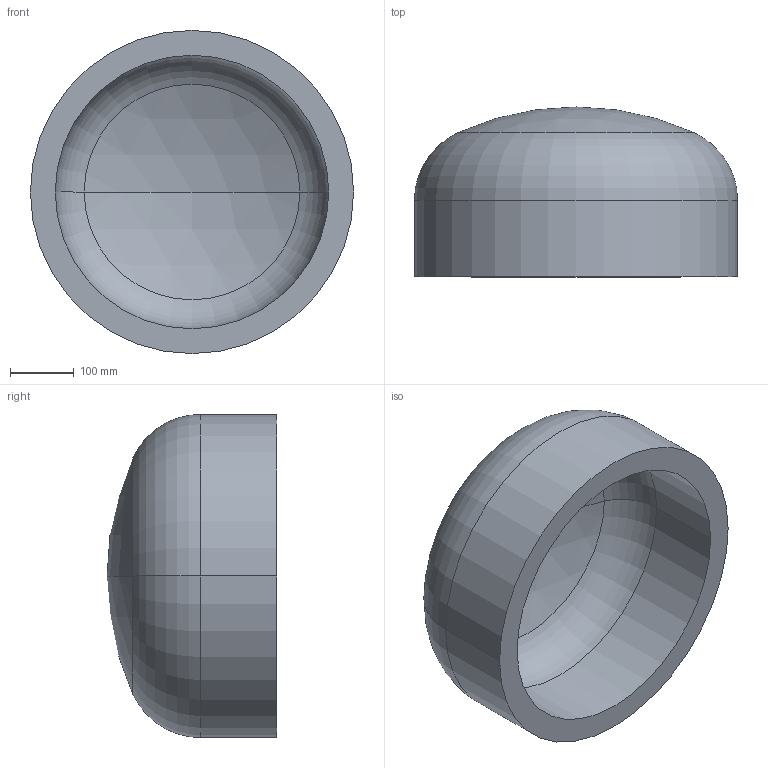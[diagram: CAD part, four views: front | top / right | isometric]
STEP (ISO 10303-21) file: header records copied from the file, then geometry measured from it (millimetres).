
FILE_DESCRIPTION (( 'STEP AP203' ), '1' );
FILE_NAME ('DIN 28013 Korbbogenform_-_Boden DIN 28013 - 508 x 120 - I - s=39.step', '2016-07-01T07:54:36', ( '' ), ( '' ), 'SwSTEP 2.0', 'SolidWorks 2013', '' );
FILE_SCHEMA (( 'CONFIG_CONTROL_DESIGN' ));
Length unit declared in the file: millimetre
Products named in the file (1): DIN 28013 Korbbogenform_-_Boden DIN 28013 - 508 x 120 - I - s=39
Bounding box: 508 x 266.98 x 508 mm (x, y, z)
Volume: 16829536 mm3; surface area: 923701.5 mm2
Topology: 1 solids, 1 shells, 13 faces, 24 edges, 14 vertices
Faces by surface type: torus 4, cylinder 4, sphere 4, plane 1
Entity records: 407 total; most frequent: DIRECTION 72, CARTESIAN_POINT 52, ORIENTED_EDGE 48, AXIS2_PLACEMENT_3D 34, EDGE_CURVE 24, CIRCLE 20, EDGE_LOOP 14, VERTEX_POINT 14
